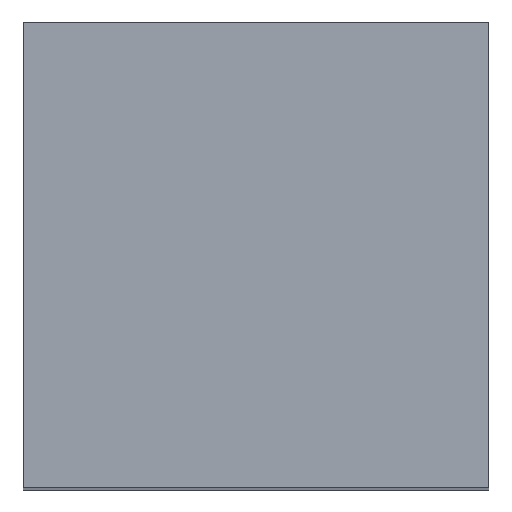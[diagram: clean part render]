
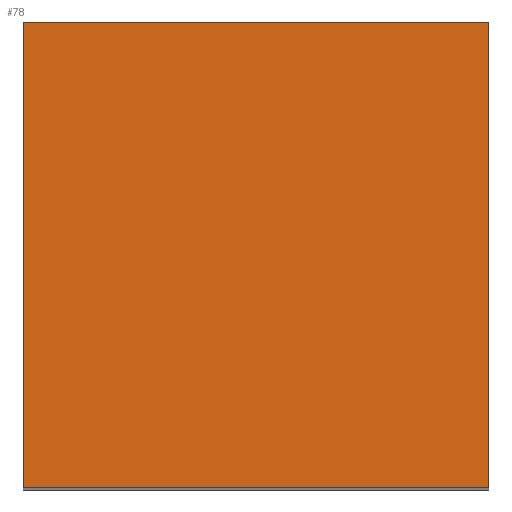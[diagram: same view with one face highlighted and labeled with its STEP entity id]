
A CAD part, top view. The second image highlights one B-rep face of the part: STEP entity #78.
In plain terms, the highlighted planar face has unit normal (0, 0, 1).
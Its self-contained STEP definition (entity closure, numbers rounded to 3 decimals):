
#78 = ADVANCED_FACE( '', ( #99 ), #100, .F. );
#99 = FACE_OUTER_BOUND( '', #138, .T. );
#100 = PLANE( '', #139 );
#138 = EDGE_LOOP( '', ( #189, #190, #191, #192 ) );
#139 = AXIS2_PLACEMENT_3D( '', #193, #194, #195 );
#189 = ORIENTED_EDGE( '', *, *, #258, .T. );
#190 = ORIENTED_EDGE( '', *, *, #263, .T. );
#191 = ORIENTED_EDGE( '', *, *, #266, .T. );
#192 = ORIENTED_EDGE( '', *, *, #267, .T. );
#193 = CARTESIAN_POINT( '', ( -6., -3., 3. ) );
#194 = DIRECTION( '', ( 0., 0., -1. ) );
#195 = DIRECTION( '', ( -1., 0., 0. ) );
#258 = EDGE_CURVE( '', #281, #282, #283, .T. );
#263 = EDGE_CURVE( '', #282, #291, #292, .T. );
#266 = EDGE_CURVE( '', #291, #296, #297, .T. );
#267 = EDGE_CURVE( '', #296, #281, #298, .T. );
#281 = VERTEX_POINT( '', #319 );
#282 = VERTEX_POINT( '', #320 );
#283 = LINE( '', #321, #322 );
#291 = VERTEX_POINT( '', #333 );
#292 = LINE( '', #334, #335 );
#296 = VERTEX_POINT( '', #341 );
#297 = LINE( '', #342, #343 );
#298 = LINE( '', #344, #345 );
#319 = CARTESIAN_POINT( '', ( -6., -3., 3. ) );
#320 = CARTESIAN_POINT( '', ( 0., -3., 3. ) );
#321 = CARTESIAN_POINT( '', ( -6., -3., 3. ) );
#322 = VECTOR( '', #371, 1000. );
#333 = CARTESIAN_POINT( '', ( 0., 3., 3. ) );
#334 = CARTESIAN_POINT( '', ( 0., -3., 3. ) );
#335 = VECTOR( '', #378, 1000. );
#341 = CARTESIAN_POINT( '', ( -6., 3., 3. ) );
#342 = CARTESIAN_POINT( '', ( 0., 3., 3. ) );
#343 = VECTOR( '', #381, 1000. );
#344 = CARTESIAN_POINT( '', ( -6., 3., 3. ) );
#345 = VECTOR( '', #382, 1000. );
#371 = DIRECTION( '', ( 1., 0., 0. ) );
#378 = DIRECTION( '', ( 0., 1., 0. ) );
#381 = DIRECTION( '', ( -1., 0., 0. ) );
#382 = DIRECTION( '', ( 0., -1., 0. ) );
